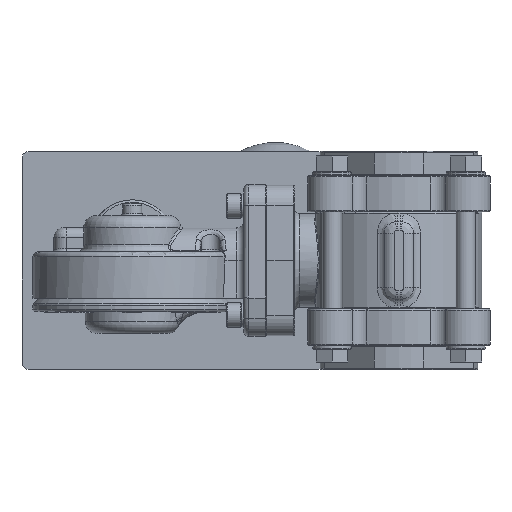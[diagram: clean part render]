
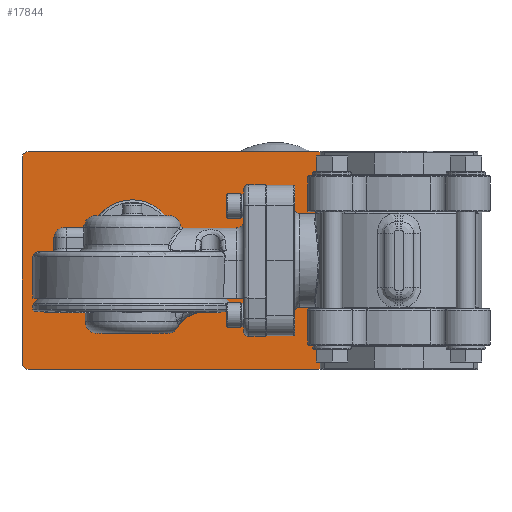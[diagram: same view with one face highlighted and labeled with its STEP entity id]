
A CAD part, left-side view. The second image highlights one B-rep face of the part: STEP entity #17844.
In plain terms, the highlighted planar face has unit normal (-1, 0, 0) as drawn and (0, 0, -1) by its records, which use the part's own axes.
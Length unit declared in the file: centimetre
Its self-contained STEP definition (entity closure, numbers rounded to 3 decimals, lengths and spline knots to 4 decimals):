
#3210=VECTOR('',#22083,1.);
#3211=VECTOR('',#22084,1.);
#3212=VECTOR('',#22087,1.);
#3213=VECTOR('',#22090,1.);
#3214=VECTOR('',#22093,1.);
#3215=VECTOR('',#22096,1.);
#3216=VECTOR('',#22099,1.);
#4238=LINE('',#40242,#3210);
#4239=LINE('',#40244,#3211);
#4240=LINE('',#40248,#3212);
#4241=LINE('',#40252,#3213);
#4242=LINE('',#40256,#3214);
#4243=LINE('',#40261,#3215);
#4244=LINE('',#40265,#3216);
#5495=PLANE('',#19062);
#6664=VERTEX_POINT('',#40227);
#6666=VERTEX_POINT('',#40232);
#6668=VERTEX_POINT('',#40237);
#6669=VERTEX_POINT('',#40240);
#6670=VERTEX_POINT('',#40241);
#6671=VERTEX_POINT('',#40243);
#6672=VERTEX_POINT('',#40245);
#6673=VERTEX_POINT('',#40247);
#6674=VERTEX_POINT('',#40249);
#6675=VERTEX_POINT('',#40251);
#6676=VERTEX_POINT('',#40253);
#6677=VERTEX_POINT('',#40255);
#6678=VERTEX_POINT('',#40257);
#6679=VERTEX_POINT('',#40259);
#6680=VERTEX_POINT('',#40260);
#6681=VERTEX_POINT('',#40262);
#6682=VERTEX_POINT('',#40264);
#7469=CIRCLE('',#19055,0.3019);
#7471=CIRCLE('',#19058,0.3019);
#7473=CIRCLE('',#19061,0.8983);
#7474=CIRCLE('',#19063,0.2);
#7475=CIRCLE('',#19064,0.3);
#7476=CIRCLE('',#19065,0.3);
#7477=CIRCLE('',#19066,0.3);
#7478=CIRCLE('',#19067,0.3);
#7479=CIRCLE('',#19068,0.2);
#9456=EDGE_CURVE('',#6664,#6664,#7469,.T.);
#9458=EDGE_CURVE('',#6666,#6666,#7471,.T.);
#9460=EDGE_CURVE('',#6668,#6668,#7473,.T.);
#9461=EDGE_CURVE('',#6669,#6670,#7474,.T.);
#9462=EDGE_CURVE('',#6669,#6671,#4238,.T.);
#9463=EDGE_CURVE('',#6672,#6671,#4239,.T.);
#9464=EDGE_CURVE('',#6673,#6672,#7475,.T.);
#9465=EDGE_CURVE('',#6674,#6673,#4240,.T.);
#9466=EDGE_CURVE('',#6675,#6674,#7476,.T.);
#9467=EDGE_CURVE('',#6676,#6675,#4241,.T.);
#9468=EDGE_CURVE('',#6677,#6676,#7477,.T.);
#9469=EDGE_CURVE('',#6678,#6677,#4242,.T.);
#9470=EDGE_CURVE('',#6679,#6678,#7478,.T.);
#9471=EDGE_CURVE('',#6680,#6679,#4239,.T.);
#9472=EDGE_CURVE('',#6680,#6681,#4243,.T.);
#9473=EDGE_CURVE('',#6682,#6681,#7479,.T.);
#9474=EDGE_CURVE('',#6682,#6670,#4244,.T.);
#13354=ORIENTED_EDGE('',*,*,#9456,.T.);
#13355=ORIENTED_EDGE('',*,*,#9458,.T.);
#13356=ORIENTED_EDGE('',*,*,#9460,.T.);
#13357=ORIENTED_EDGE('',*,*,#9461,.F.);
#13358=ORIENTED_EDGE('',*,*,#9462,.T.);
#13359=ORIENTED_EDGE('',*,*,#9463,.F.);
#13360=ORIENTED_EDGE('',*,*,#9464,.F.);
#13361=ORIENTED_EDGE('',*,*,#9465,.F.);
#13362=ORIENTED_EDGE('',*,*,#9466,.F.);
#13363=ORIENTED_EDGE('',*,*,#9467,.F.);
#13364=ORIENTED_EDGE('',*,*,#9468,.F.);
#13365=ORIENTED_EDGE('',*,*,#9469,.F.);
#13366=ORIENTED_EDGE('',*,*,#9470,.F.);
#13367=ORIENTED_EDGE('',*,*,#9471,.F.);
#13368=ORIENTED_EDGE('',*,*,#9472,.T.);
#13369=ORIENTED_EDGE('',*,*,#9473,.F.);
#13370=ORIENTED_EDGE('',*,*,#9474,.T.);
#15459=EDGE_LOOP('',(#13354));
#15460=EDGE_LOOP('',(#13355));
#15461=EDGE_LOOP('',(#13356));
#15462=EDGE_LOOP('',(#13357,#13358,#13359,#13360,#13361,#13362,#13363,#13364,
#13365,#13366,#13367,#13368,#13369,#13370));
#16744=FACE_BOUND('',#15459,.T.);
#16745=FACE_BOUND('',#15460,.T.);
#16746=FACE_BOUND('',#15461,.T.);
#16747=FACE_BOUND('',#15462,.T.);
#17844=ADVANCED_FACE('',(#16744,#16745,#16746,#16747),#5495,.F.);
#19055=AXIS2_PLACEMENT_3D('',#40226,#22066,#22067);
#19058=AXIS2_PLACEMENT_3D('',#40231,#22072,#22073);
#19061=AXIS2_PLACEMENT_3D('',#40236,#22078,#22079);
#19062=AXIS2_PLACEMENT_3D('',#40238,#22080,$);
#19063=AXIS2_PLACEMENT_3D('',#40239,#22081,#22082);
#19064=AXIS2_PLACEMENT_3D('',#40246,#22085,#22086);
#19065=AXIS2_PLACEMENT_3D('',#40250,#22088,#22089);
#19066=AXIS2_PLACEMENT_3D('',#40254,#22091,#22092);
#19067=AXIS2_PLACEMENT_3D('',#40258,#22094,#22095);
#19068=AXIS2_PLACEMENT_3D('',#40263,#22097,#22098);
#22066=DIRECTION('',(0.,0.,1.));
#22067=DIRECTION('',(0.302,0.,0.));
#22072=DIRECTION('',(0.,0.,1.));
#22073=DIRECTION('',(0.302,0.,0.));
#22078=DIRECTION('',(0.,0.,1.));
#22079=DIRECTION('',(0.898,0.,0.));
#22080=DIRECTION('',(0.,0.,1.));
#22081=DIRECTION('',(0.,0.,1.));
#22082=DIRECTION('',(-0.141,-0.141,0.));
#22083=DIRECTION('',(0.,1.,0.));
#22084=DIRECTION('',(1.,0.,0.));
#22085=DIRECTION('',(0.,0.,1.));
#22086=DIRECTION('',(-0.212,-0.212,0.));
#22087=DIRECTION('',(0.,-1.,0.));
#22088=DIRECTION('',(0.,0.,1.));
#22089=DIRECTION('',(-0.212,0.212,0.));
#22090=DIRECTION('',(-1.,0.,0.));
#22091=DIRECTION('',(0.,0.,1.));
#22092=DIRECTION('',(0.212,0.212,0.));
#22093=DIRECTION('',(0.,1.,0.));
#22094=DIRECTION('',(0.,0.,1.));
#22095=DIRECTION('',(0.212,-0.212,0.));
#22096=DIRECTION('',(0.,-1.,0.));
#22097=DIRECTION('',(0.,0.,1.));
#22098=DIRECTION('',(0.141,-0.141,0.));
#22099=DIRECTION('',(-1.,0.,0.));
#40226=CARTESIAN_POINT('',(-5.25,10.45,0.));
#40227=CARTESIAN_POINT('',(-5.5519,10.45,0.));
#40231=CARTESIAN_POINT('',(-5.25,2.95,0.));
#40232=CARTESIAN_POINT('',(-5.5519,2.95,0.));
#40236=CARTESIAN_POINT('',(-5.25,7.95,0.));
#40237=CARTESIAN_POINT('',(-6.1483,7.95,0.));
#40238=CARTESIAN_POINT('',(-4.5,6.25,0.));
#40239=CARTESIAN_POINT('',(-7.7,-0.2,0.));
#40240=CARTESIAN_POINT('',(-7.9,-0.2,0.));
#40241=CARTESIAN_POINT('',(-7.7,-0.4,0.));
#40242=CARTESIAN_POINT('',(-7.9,3.042,0.));
#40243=CARTESIAN_POINT('',(-7.9,0.,0.));
#40244=CARTESIAN_POINT('',(-9.,0.,0.));
#40245=CARTESIAN_POINT('',(-8.7,0.,0.));
#40246=CARTESIAN_POINT('',(-8.7,0.3,0.));
#40247=CARTESIAN_POINT('',(-9.,0.3,0.));
#40248=CARTESIAN_POINT('',(-9.,12.5,0.));
#40249=CARTESIAN_POINT('',(-9.,12.2,0.));
#40250=CARTESIAN_POINT('',(-8.7,12.2,0.));
#40251=CARTESIAN_POINT('',(-8.7,12.5,0.));
#40252=CARTESIAN_POINT('',(0.,12.5,0.));
#40253=CARTESIAN_POINT('',(-0.3,12.5,0.));
#40254=CARTESIAN_POINT('',(-0.3,12.2,0.));
#40255=CARTESIAN_POINT('',(0.,12.2,0.));
#40256=CARTESIAN_POINT('',(0.,0.,0.));
#40257=CARTESIAN_POINT('',(0.,0.3,0.));
#40258=CARTESIAN_POINT('',(-0.3,0.3,0.));
#40259=CARTESIAN_POINT('',(-0.3,0.,0.));
#40260=CARTESIAN_POINT('',(-1.1,0.,0.));
#40261=CARTESIAN_POINT('',(-1.1,3.042,0.));
#40262=CARTESIAN_POINT('',(-1.1,-0.2,0.));
#40263=CARTESIAN_POINT('',(-1.3,-0.2,0.));
#40264=CARTESIAN_POINT('',(-1.3,-0.4,0.));
#40265=CARTESIAN_POINT('',(-4.5,-0.4,0.));
